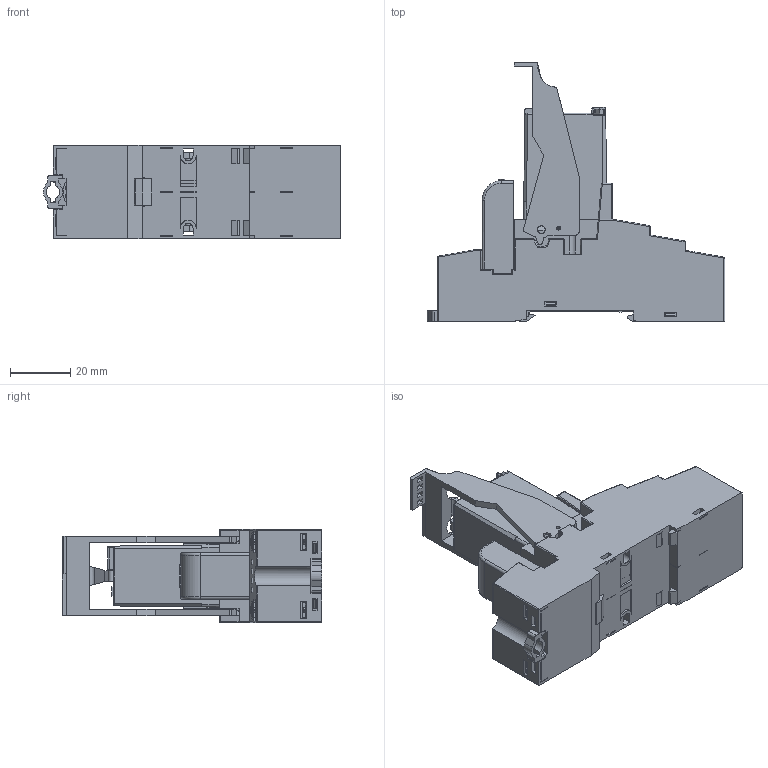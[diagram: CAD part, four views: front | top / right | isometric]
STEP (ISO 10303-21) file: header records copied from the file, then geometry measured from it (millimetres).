
FILE_DESCRIPTION(/* description */ ('Unknown'),/* implementation_level */ '2;1');
FILE_NAME(/* name */ '58P3',/* time_stamp */ '2016-02-11T14:31:07+01:00',/* author */ ('Unknown'),/* organization */ ('Unknown'),/* preprocessor_version */ 'ST-DEVELOPER v16',/* originating_system */ 'DEX',/* authorisation */ $);
FILE_SCHEMA (('AUTOMOTIVE_DESIGN {1 0 10303 214 3 1 1}'));
Products named in the file (12): 58P3; Assieme 94.P3; Assieme 94.P3.asm0; 9902 modulino con led; guscio 9902 con led; insieme schede 9902; cs 9902; lamelle 8600; coperchio 9902; prisma 9902; top; None
Assembly tree (11 placements, depth 4):
  58P3
    Assieme 94.P3
      Assieme 94.P3.asm0
    9902 modulino con led
      guscio 9902 con led
      insieme schede 9902
        cs 9902
        lamelle 8600
      coperchio 9902
      prisma 9902
    top
    None
Bounding box: 98.9 x 86.26 x 31 mm (x, y, z)
Volume: 8269.7 mm3; surface area: 56147.3 mm2
Topology: 31 solids, 3642 shells, 4884 faces, 22632 edges, 21440 vertices
Faces by surface type: plane 3736, cylinder 861, torus 132, cone 103, sphere 32, bspline 20
Full cylindrical faces by diameter (mm): 1 x12, 1.15 x3, 1.2 x6, 1.3 x2, 1.6 x4, 2 x14, 2.2 x11, 2.5 x3, 2.6 x11, 3 x3, 3.2 x3, 5 x1
Entity records: 260536 total; most frequent: CARTESIAN_POINT 52755, DIRECTION 35119, ORIENTED_EDGE 25811, EDGE_CURVE 22510, VERTEX_POINT 21429, LINE 18833, VECTOR 18833, AXIS2_PLACEMENT_3D 8143
